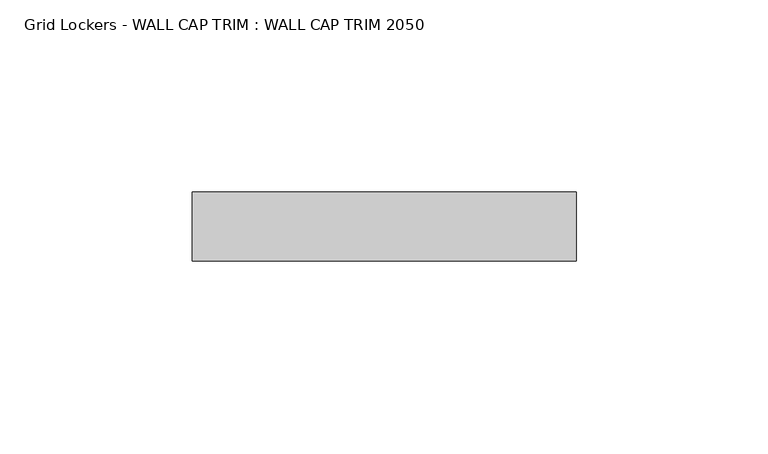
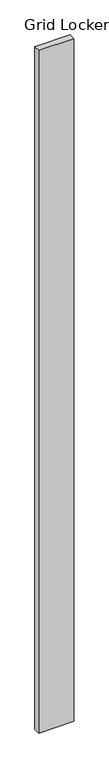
"""IFC4 building model written with IfcOpenShell, lengths in millimetres: furniture geometry, Grid Lockers - WALL CAP TRIM : WALL CAP TRIM 2050."""

from ifc_helpers import new_model, si_unit, origin, origin_with_axes, place, context, project, spatial, polyline, outline, extrude, source, transform, mapped, element, save


def grid_lockers_wall_cap_trim_wall_cap_trim_2050_48bdf070(model_context):
    return source(origin(), model_context, "Body", "SweptSolid", [
        extrude(outline(polyline([(100.0, -18.0), (0.0, -18.0), (0.0, 0.0), (100.0, 0.0), (100.0, -18.0)])), origin_with_axes(), (0.0, 0.0, 1.0), 2050.0),
    ])


if __name__ == "__main__":
    model = new_model("IFC4")
    model_context = context("Model", 3, world=origin())
    ifc_project = project(units=[si_unit("LENGTHUNIT", "METRE", prefix="MILLI")], contexts=[model_context])
    site = spatial("IfcSite", under=ifc_project)
    building = spatial("IfcBuilding", under=site)
    placement = place(None, origin())
    grid_lockers_wall_cap_trim_wall_cap_trim_2050_shape = grid_lockers_wall_cap_trim_wall_cap_trim_2050_48bdf070(model_context)
    element("IfcFurniture", 1, ObjectType="Grid Lockers - WALL CAP TRIM : WALL CAP TRIM 2050", at=placement, inside=building, context=model_context, shape_type="MappedRepresentation", body=[
        mapped(grid_lockers_wall_cap_trim_wall_cap_trim_2050_shape, transform((0.0, 0.0, 0.0), x_axis=(1.0, 0.0, 0.0), y_axis=(0.0, 1.0, 0.0), z_axis=(0.0, 0.0, 1.0))),
    ])
    save(model, "model.ifc")
